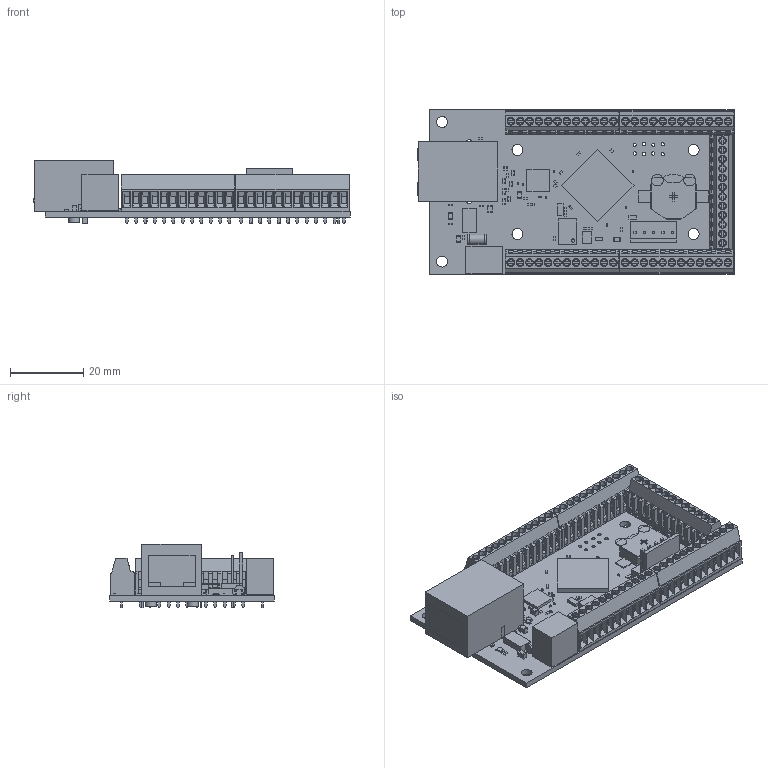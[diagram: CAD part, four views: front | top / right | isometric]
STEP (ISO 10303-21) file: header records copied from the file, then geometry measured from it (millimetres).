
FILE_DESCRIPTION(('Open CASCADE Model'),'2;1');
FILE_NAME('Open CASCADE Shape Model','2011-07-12T19:17:22',('Author'),( 'Open CASCADE'),'Open CASCADE STEP processor 6.2','Open CASCADE 6.2' ,'Unknown');
FILE_SCHEMA(('AUTOMOTIVE_DESIGN { 1 0 10303 214 1 1 1 1 }'));
Length unit declared in the file: millimetre
Products named in the file (181): PCB; Board; C6; 532851552; Extruded; 532851168; 532850912; C1; Q2; 532851040; C18; 426566512; 426566768; BAT1; 544163456; 544163584; 450179152; Cylinder; 450179272; 450179392; 544163968; 544164096; 544164224; 544164352; Q1; 544164864; IC2; 452041552; IC1; 532851808; R9; 452040912; 452040784; R3; R1; 532852832; 532852704; PWR; 426543984; 426566256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
Assembly tree (295 placements, depth 4):
  PCB
    Board
    C6
      532851552
        Extruded
      532851168
        Extruded
      532850912
        Extruded
    C1
      532850912
        Extruded
      532851168
        Extruded
      532851552
        Extruded
    Q2
      532851040
        Extruded
    C18
      426566512
        Extruded
      426566768  x2
        Extruded
    BAT1
      544163456
        Extruded
      544163584
        Extruded
      450179152
        Cylinder
      450179272
        Cylinder
      450179392
        Cylinder
      544163968
        Extruded
      544164096
        Extruded
      544164224  x2
        Extruded
      544164352  x2
        Extruded
    Q1
      544164864
        Extruded
    IC2
      452041552
        Extruded
    IC1
      532851808
        Extruded
    R9
      452040912
        Extruded
      452040784  x2
        Extruded
    R3
      452040912
        Extruded
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Bounding box: 86.09 x 44.9 x 17.24 mm (x, y, z)
Volume: 20070 mm3; surface area: 22294.9 mm2
Topology: 175 solids, 235 shells, 5252 faces, 12861 edges, 8454 vertices
Faces by surface type: plane 4071, cylinder 941, cone 240
Full cylindrical faces by diameter (mm): 0.9 x17, 1 x9, 1.1 x60, 1.3 x2, 1.63 x2, 2.7 x3, 3 x8, 3.2 x2, 3.25 x2, 12 x1
Entity records: 97311 total; most frequent: CARTESIAN_POINT 31433, DIRECTION 11323, LINE 6823, VECTOR 6823, ORIENTED_EDGE 6174, PCURVE 6174, DEFINITIONAL_REPRESENTATION 6174, EDGE_CURVE 3087
